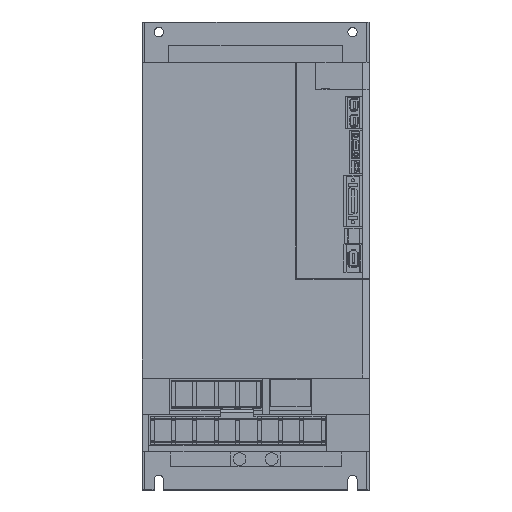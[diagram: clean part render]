
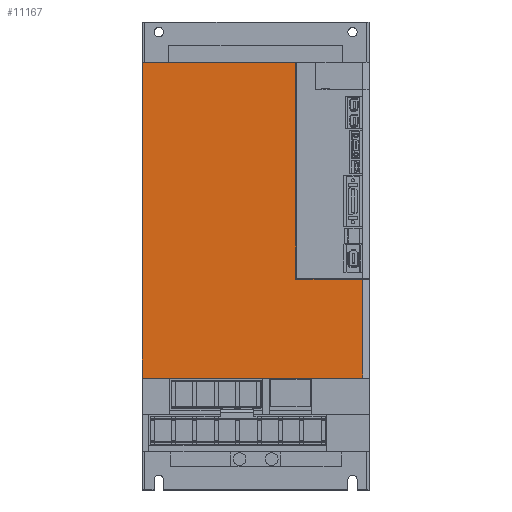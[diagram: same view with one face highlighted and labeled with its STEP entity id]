
A CAD part, top view. The second image highlights one B-rep face of the part: STEP entity #11167.
In plain terms, the highlighted planar face has unit normal (0, 0, 1).
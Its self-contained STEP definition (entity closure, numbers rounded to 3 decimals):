
#10880 = EDGE_CURVE ( 'NONE', #10881, #10882, #39242, .T. ) ;
#10881 = VERTEX_POINT ( 'NONE', #39238 ) ;
#10882 = VERTEX_POINT ( 'NONE', #39237 ) ;
#11095 = VERTEX_POINT ( 'NONE', #39627 ) ;
#11097 = EDGE_CURVE ( 'NONE', #10882, #11095, #39626, .T. ) ;
#11146 = VERTEX_POINT ( 'NONE', #39732 ) ;
#11147 = ORIENTED_EDGE ( 'NONE', *, *, #11148, .F. ) ;
#11148 = EDGE_CURVE ( 'NONE', #11149, #11171, #39731, .T. ) ;
#11149 = VERTEX_POINT ( 'NONE', #39727 ) ;
#11150 = ORIENTED_EDGE ( 'NONE', *, *, #11151, .T. ) ;
#11151 = EDGE_CURVE ( 'NONE', #11149, #10881, #39726, .T. ) ;
#11152 = ORIENTED_EDGE ( 'NONE', *, *, #10880, .T. ) ;
#11153 = ORIENTED_EDGE ( 'NONE', *, *, #11097, .T. ) ;
#11154 = ORIENTED_EDGE ( 'NONE', *, *, #11155, .T. ) ;
#11155 = EDGE_CURVE ( 'NONE', #11095, #11146, #39721, .T. ) ;
#11167 = ADVANCED_FACE ( 'NONE', ( #39777 ), #39776, .T. ) ;
#11168 = EDGE_LOOP ( 'NONE', ( #11169, #11147, #11150, #11152, #11153, #11154 ) ) ;
#11169 = ORIENTED_EDGE ( 'NONE', *, *, #11170, .F. ) ;
#11170 = EDGE_CURVE ( 'NONE', #11171, #11146, #39768, .T. ) ;
#11171 = VERTEX_POINT ( 'NONE', #39764 ) ;
#39237 = CARTESIAN_POINT ( 'NONE',  ( -12.5, -23., 139. ) ) ;
#39238 = CARTESIAN_POINT ( 'NONE',  ( 102.5, -23., 139. ) ) ;
#39239 = DIRECTION ( 'NONE',  ( -1., 0., 0. ) ) ;
#39240 = VECTOR ( 'NONE', #39239, 1000. ) ;
#39241 = CARTESIAN_POINT ( 'NONE',  ( 157.5, -23., 139. ) ) ;
#39242 = LINE ( 'NONE', #39241, #39240 ) ;
#39623 = DIRECTION ( 'NONE',  ( 0., -1., 0. ) ) ;
#39624 = VECTOR ( 'NONE', #39623, 1000. ) ;
#39625 = CARTESIAN_POINT ( 'NONE',  ( -12.5, -23., 139. ) ) ;
#39626 = LINE ( 'NONE', #39625, #39624 ) ;
#39627 = CARTESIAN_POINT ( 'NONE',  ( -12.5, -259., 139. ) ) ;
#39718 = DIRECTION ( 'NONE',  ( 1., 0., 0. ) ) ;
#39719 = VECTOR ( 'NONE', #39718, 1000. ) ;
#39720 = CARTESIAN_POINT ( 'NONE',  ( -12.5, -259., 139. ) ) ;
#39721 = LINE ( 'NONE', #39720, #39719 ) ;
#39723 = DIRECTION ( 'NONE',  ( 0., 1., 0. ) ) ;
#39724 = VECTOR ( 'NONE', #39723, 1000. ) ;
#39725 = CARTESIAN_POINT ( 'NONE',  ( 102.5, -24., 139. ) ) ;
#39726 = LINE ( 'NONE', #39725, #39724 ) ;
#39727 = CARTESIAN_POINT ( 'NONE',  ( 102.5, -185., 139. ) ) ;
#39728 = DIRECTION ( 'NONE',  ( 1., 0., 0. ) ) ;
#39729 = VECTOR ( 'NONE', #39728, 1000. ) ;
#39730 = CARTESIAN_POINT ( 'NONE',  ( 156.5, -185., 139. ) ) ;
#39731 = LINE ( 'NONE', #39730, #39729 ) ;
#39732 = CARTESIAN_POINT ( 'NONE',  ( 152.5, -259., 139. ) ) ;
#39764 = CARTESIAN_POINT ( 'NONE',  ( 152.5, -185., 139. ) ) ;
#39765 = DIRECTION ( 'NONE',  ( 0., -1., 0. ) ) ;
#39766 = VECTOR ( 'NONE', #39765, 1000. ) ;
#39767 = CARTESIAN_POINT ( 'NONE',  ( 152.5, -179.415, 139. ) ) ;
#39768 = LINE ( 'NONE', #39767, #39766 ) ;
#39770 = DIRECTION ( 'NONE',  ( 1., 0., 0. ) ) ;
#39771 = DIRECTION ( 'NONE',  ( 0., 0., 1. ) ) ;
#39773 = CARTESIAN_POINT ( 'NONE',  ( 0., 0., 139. ) ) ;
#39774 = AXIS2_PLACEMENT_3D ( 'NONE', #39773, #39771, #39770 ) ;
#39776 = PLANE ( 'NONE',  #39774 ) ;
#39777 = FACE_OUTER_BOUND ( 'NONE', #11168, .T. ) ;
